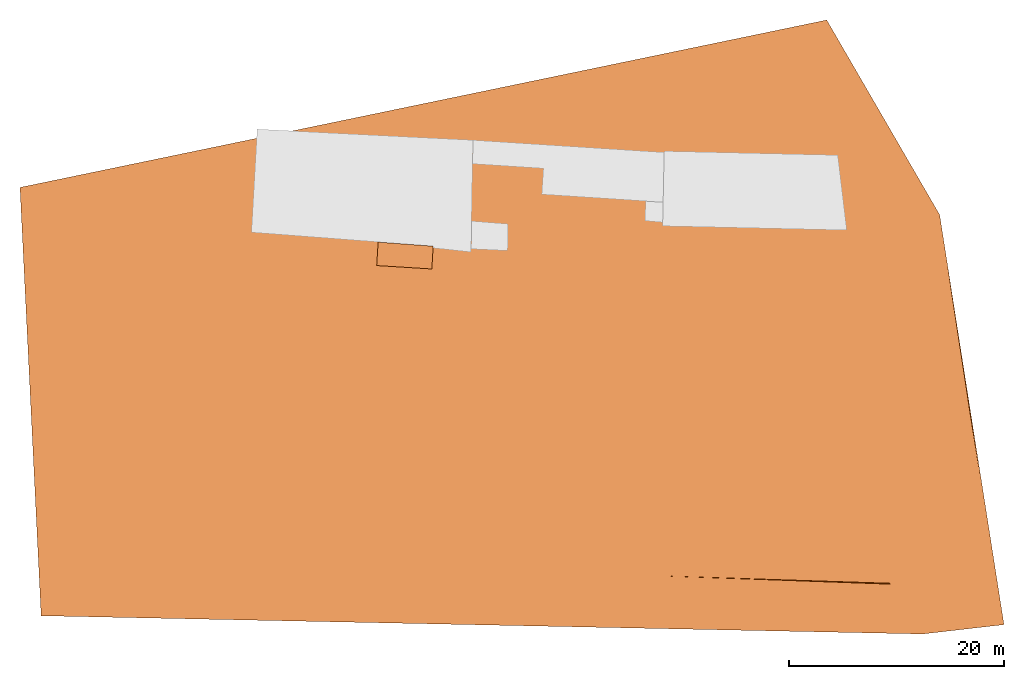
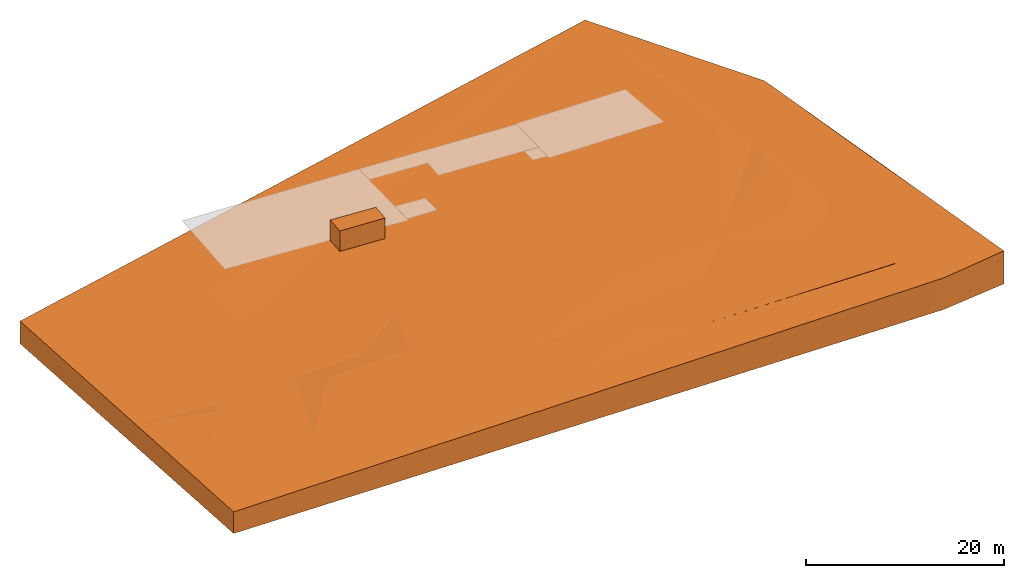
# One storey, part 1 of 2: 2 proxies.
"""IFC2X3 building model written with IfcOpenShell, lengths in millimetres."""

from ifc_helpers import new_model, entity, si_unit, converted_unit, frame, origin, origin_with_axes, place, context, subcontext, project, spatial, faceted_brep, material, element, save


model = new_model("IFC2X3")

# Units and contexts
model_context = context("Model", 3, precision=1e-05, world=origin())
body_context = subcontext(model_context, "Body", "Model", "MODEL_VIEW")
ifc_project = project(units=[si_unit("LENGTHUNIT", "METRE", prefix="MILLI"), converted_unit("PLANEANGLEUNIT", "DEGREE", entity("IfcPlaneAngleMeasure", 0.0174532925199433), si_unit("PLANEANGLEUNIT", "RADIAN"), dimensions=[0, 0, 0, 0, 0, 0, 0]), si_unit("AREAUNIT", "SQUARE_METRE"), si_unit("VOLUMEUNIT", "CUBIC_METRE")], contexts=[model_context])

# Building, storey
building_placement = place(None, origin())
building = spatial("IfcBuilding", under=ifc_project, at=building_placement, Name="Gebäude", CompositionType="ELEMENT")
storey_placement = place(building_placement, origin_with_axes())
storey = spatial("IfcBuildingStorey", under=building, at=storey_placement, Name="Allgemein", CompositionType="ELEMENT")

# Proxies
ifc_material_1 = material(Name="<Unnamed Material>")
proxy_1_placement = place(storey_placement, frame((106469.4287397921, 107641.0710294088, -4170.01), z_axis=(0.0, 0.0, 1.0), x_axis=(1.0, 0.0, 0.0)))
element("IfcBuildingElementProxy", 1, at=proxy_1_placement, inside=storey, material=ifc_material_1, Name="3D Element", context=body_context, shape_type="Brep", body=[
    faceted_brep([(83887.80400483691, 0.01000000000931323, 3901.01), (83670.93977277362, 747.9539640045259, 3895.497999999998), (91447.25555150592, 868.3649489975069, 4072.01), (83670.93977277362, 747.9539640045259, 3895.497999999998), (83887.80400483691, 0.01000000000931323, 3901.01), (59379.27151982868, 5407.71084285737, 3592.01), (83887.80400483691, 0.01000000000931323, 3901.01), (1962.899374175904, 1694.005056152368, 2663.01), (24211.96380059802, 3129.564919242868, 3064.01), (83887.80400483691, 0.01000000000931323, 3901.01), (24211.96380059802, 3129.564919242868, 3064.01), (42631.42991464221, 4319.951882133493, 3365.01), (83887.80400483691, 0.01000000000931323, 3901.01), (42631.42991464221, 4319.951882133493, 3365.01), (59379.27151982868, 5407.71084285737, 3592.01), (91447.25555150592, 868.3649489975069, 4072.01), (83670.93977277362, 747.9539640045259, 3895.497999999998), (83277.39790456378, 1708.51383567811, 3888.150000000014), (83277.39790456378, 1708.51383567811, 3888.150000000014), (83670.93977277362, 747.9539640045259, 3895.497999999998), (59379.27151982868, 5407.71084285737, 3592.01), (91447.25555150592, 868.3649489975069, 4072.01), (83277.39790456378, 1708.51383567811, 3888.150000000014), (85622.3654739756, 6844.336299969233, 4049.01), (91447.25555150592, 868.3649489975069, 4072.01), (85622.3654739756, 6844.336299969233, 4049.01), (89221.70603482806, 14474.36988616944, 4096.01), (91447.25555150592, 868.3649489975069, 4072.01), (89221.70603482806, 14474.36988616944, 4096.01), (85467.89195458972, 38960.49005390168, 4075.01), (24211.96380059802, 3129.564919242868, 3064.01), (1962.899374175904, 1694.005056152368, 2663.01), (12762.36803012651, 5403.962569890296, 2972.01), (12762.36803012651, 5403.962569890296, 2972.01), (1962.899374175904, 1694.005056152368, 2663.01), (1801.634645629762, 8192.807076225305, 2738.01), (1801.634645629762, 8192.807076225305, 2738.01), (1962.899374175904, 1694.005056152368, 2663.01), (0.01000000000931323, 41502.88635599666, 2777.01), (82907.14309136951, 2393.614575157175, 3882.637999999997), (83277.39790456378, 1708.51383567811, 3888.150000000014), (59379.27151982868, 5407.71084285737, 3592.01), (83277.39790456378, 1708.51383567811, 3888.150000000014), (82907.14309136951, 2393.614575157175, 3882.637999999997), (85622.3654739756, 6844.336299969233, 4049.01), (82475.90345780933, 3042.06057811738, 3877.125999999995), (82907.14309136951, 2393.614575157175, 3882.637999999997), (59379.27151982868, 5407.71084285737, 3592.01), (82907.14309136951, 2393.614575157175, 3882.637999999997), (82475.90345780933, 3042.06057811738, 3877.125999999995), (85622.3654739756, 6844.336299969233, 4049.01), (81987.27882402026, 3648.440398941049, 3871.614999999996), (82475.90345780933, 3042.06057811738, 3877.125999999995), (59379.27151982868, 5407.71084285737, 3592.01), (82475.90345780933, 3042.06057811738, 3877.125999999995), (81987.27882402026, 3648.440398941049, 3871.614999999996), (85622.3654739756, 6844.336299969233, 4049.01), (42631.42991464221, 4319.951882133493, 3365.01), (24211.96380059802, 3129.564919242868, 3064.01), (32584.86327474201, 10184.10192848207, 3305.01), (24211.96380059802, 3129.564919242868, 3064.01), (12762.36803012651, 5403.962569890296, 2972.01), (15663.2013103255, 9103.518121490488, 3001.01), (24211.96380059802, 3129.564919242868, 3064.01), (15663.2013103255, 9103.518121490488, 3001.01), (32584.86327474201, 10184.10192848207, 3305.01), (81445.34761827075, 4207.692138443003, 3866.103000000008), (81987.27882402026, 3648.440398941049, 3871.614999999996), (59379.27151982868, 5407.71084285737, 3592.01), (81987.27882402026, 3648.440398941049, 3871.614999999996), (81445.34761827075, 4207.692138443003, 3866.103000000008), (85622.3654739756, 6844.336299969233, 4049.01), (80962.69147887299, 4629.16356244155, 3895.01), (81445.34761827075, 4207.692138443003, 3866.103000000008), (59379.27151982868, 5407.71084285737, 3592.01), (81445.34761827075, 4207.692138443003, 3866.103000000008), (80962.69147887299, 4629.16356244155, 3895.01), (85622.3654739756, 6844.336299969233, 4049.01), (59379.27151982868, 5407.71084285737, 3592.01), (42631.42991464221, 4319.951882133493, 3365.01), (53104.674319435, 8176.142573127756, 3662.01), (53104.674319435, 8176.142573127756, 3662.01), (42631.42991464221, 4319.951882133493, 3365.01), (41169.68759172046, 10754.85533023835, 3385.01), (42631.42991464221, 4319.951882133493, 3365.01), (32584.86327474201, 10184.10192848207, 3305.01), (41169.68759172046, 10754.85533023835, 3385.01), (80854.63575284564, 4715.146519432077, 3860.590999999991), (80962.69147887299, 4629.16356244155, 3895.01), (59379.27151982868, 5407.71084285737, 3592.01), (80962.69147887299, 4629.16356244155, 3895.01), (80854.63575284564, 4715.146519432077, 3860.590999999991), (85622.3654739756, 6844.336299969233, 4049.01), (80436.14630620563, 5022.561943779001, 3856.917000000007), (80854.63575284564, 4715.146519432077, 3860.590999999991), (59379.27151982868, 5407.71084285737, 3592.01), (80854.63575284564, 4715.146519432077, 3860.590999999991), (80436.14630620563, 5022.561943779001, 3856.917000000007), (85622.3654739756, 6844.336299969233, 4049.01), (80436.14630620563, 5022.561943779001, 3856.917000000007), (59379.27151982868, 5407.71084285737, 3592.01), (79775.27111928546, 5434.502494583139, 3851.40499999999), (80436.14630620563, 5022.561943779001, 3856.917000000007), (79775.27111928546, 5434.502494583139, 3851.40499999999), (85622.3654739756, 6844.336299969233, 4049.01), (12762.36803012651, 5403.962569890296, 2972.01), (1801.634645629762, 8192.807076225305, 2738.01), (15663.2013103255, 9103.518121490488, 3001.01), (79775.27111928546, 5434.502494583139, 3851.40499999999), (59379.27151982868, 5407.71084285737, 3592.01), (79079.55640714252, 5784.405359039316, 3845.893999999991), (79079.55640714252, 5784.405359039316, 3845.893999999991), (59379.27151982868, 5407.71084285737, 3592.01), (78354.80941979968, 6069.347322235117, 3840.382000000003), (78354.80941979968, 6069.347322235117, 3840.382000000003), (59379.27151982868, 5407.71084285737, 3592.01), (77607.08018224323, 6286.951640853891, 3834.870000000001), (77607.08018224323, 6286.951640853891, 3834.870000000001), (59379.27151982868, 5407.71084285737, 3592.01), (76842.6112663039, 6435.401647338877, 3829.358999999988), (76842.6112663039, 6435.401647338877, 3829.358999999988), (59379.27151982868, 5407.71084285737, 3592.01), (76326.81224458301, 6495.312238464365, 3825.684000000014), (76326.81224458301, 6495.312238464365, 3825.684000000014), (59379.27151982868, 5407.71084285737, 3592.01), (75808.32176988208, 6523.702268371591, 3822.01), (75808.32176988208, 6523.702268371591, 3822.01), (59379.27151982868, 5407.71084285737, 3592.01), (62745.39512460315, 12149.42137313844, 3658.01), (59379.27151982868, 5407.71084285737, 3592.01), (53104.674319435, 8176.142573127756, 3662.01), (62745.39512460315, 12149.42137313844, 3658.01), (79775.27111928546, 5434.502494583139, 3851.40499999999), (79079.55640714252, 5784.405359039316, 3845.893999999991), (77841.91465489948, 14256.45029617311, 3934.116), (85622.3654739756, 6844.336299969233, 4049.01), (79775.27111928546, 5434.502494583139, 3851.40499999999), (77841.91465489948, 14256.45029617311, 3934.116), (79079.55640714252, 5784.405359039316, 3845.893999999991), (78354.80941979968, 6069.347322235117, 3840.382000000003), (77841.91465489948, 14256.45029617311, 3934.116), (78354.80941979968, 6069.347322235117, 3840.382000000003), (77607.08018224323, 6286.951640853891, 3834.870000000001), (77053.00875203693, 13749.68555332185, 3920.754999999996), (78354.80941979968, 6069.347322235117, 3840.382000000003), (77053.00875203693, 13749.68555332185, 3920.754999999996), (77841.91465489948, 14256.45029617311, 3934.116), (77607.08018224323, 6286.951640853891, 3834.870000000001), (76842.6112663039, 6435.401647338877, 3829.358999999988), (76202.59469525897, 13354.74249053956, 3907.393000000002), (77607.08018224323, 6286.951640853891, 3834.870000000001), (76202.59469525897, 13354.74249053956, 3907.393000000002), (77053.00875203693, 13749.68555332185, 3920.754999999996), (76842.6112663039, 6435.401647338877, 3829.358999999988), (76326.81224458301, 6495.312238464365, 3825.684000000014), (76202.59469525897, 13354.74249053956, 3907.393000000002), (76326.81224458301, 6495.312238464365, 3825.684000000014), (75808.32176988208, 6523.702268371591, 3822.01), (75306.42768018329, 13078.93932891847, 3894.030999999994), (76326.81224458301, 6495.312238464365, 3825.684000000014), (75306.42768018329, 13078.93932891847, 3894.030999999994), (76202.59469525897, 13354.74249053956, 3907.393000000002), (75808.32176988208, 6523.702268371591, 3822.01), (62745.39512460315, 12149.42137313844, 3658.01), (74614.24009149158, 12953.43079639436, 3884.01), (75808.32176988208, 6523.702268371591, 3822.01), (74614.24009149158, 12953.43079639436, 3884.01), (75306.42768018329, 13078.93932891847, 3894.030999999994), (85622.3654739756, 6844.336299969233, 4049.01), (77841.91465489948, 14256.45029617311, 3934.116), (78554.69801061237, 14865.64883972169, 3947.477999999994), (89221.70603482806, 14474.36988616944, 4096.01), (85622.3654739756, 6844.336299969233, 4049.01), (79318.66832559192, 15753.83709407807, 3964.179999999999), (85622.3654739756, 6844.336299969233, 4049.01), (78554.69801061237, 14865.64883972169, 3947.477999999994), (79081.9575167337, 15444.70075491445, 3962.01), (85622.3654739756, 6844.336299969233, 4049.01), (79081.9575167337, 15444.70075491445, 3962.01), (79318.66832559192, 15753.83709407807, 3964.179999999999), (53104.674319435, 8176.142573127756, 3662.01), (41169.68759172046, 10754.85533023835, 3385.01), (62745.39512460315, 12149.42137313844, 3658.01), (15663.2013103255, 9103.518121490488, 3001.01), (1801.634645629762, 8192.807076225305, 2738.01), (3328.762055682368, 10052.63044388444, 2750.01), (3328.762055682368, 10052.63044388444, 2750.01), (1801.634645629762, 8192.807076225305, 2738.01), (2135.349988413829, 19632.49431240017, 2762.01), (2135.349988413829, 19632.49431240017, 2762.01), (1801.634645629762, 8192.807076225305, 2738.01), (820.4438803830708, 33717.42469647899, 2769.01), (820.4438803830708, 33717.42469647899, 2769.01), (1801.634645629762, 8192.807076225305, 2738.01), (0.01000000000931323, 41502.88635599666, 2777.01), (15663.2013103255, 9103.518121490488, 3001.01), (3328.762055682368, 10052.63044388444, 2750.01), (8881.733948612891, 17311.97013320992, 3167.01), (32584.86327474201, 10184.10192848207, 3305.01), (15663.2013103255, 9103.518121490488, 3001.01), (21629.00973146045, 16649.55250335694, 3324.01), (21629.00973146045, 16649.55250335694, 3324.01), (15663.2013103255, 9103.518121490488, 3001.01), (19216.81281739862, 19071.39127734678, 2636.01), (15663.2013103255, 9103.518121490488, 3001.01), (8881.733948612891, 17311.97013320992, 3167.01), (10220.61584060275, 18964.74727464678, 2693.01), (15663.2013103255, 9103.518121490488, 3001.01), (10220.61584060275, 18964.74727464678, 2693.01), (19216.81281739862, 19071.39127734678, 2636.01), (8881.733948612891, 17311.97013320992, 3167.01), (3328.762055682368, 10052.63044388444, 2750.01), (2135.349988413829, 19632.49431240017, 2762.01), (41169.68759172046, 10754.85533023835, 3385.01), (32584.86327474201, 10184.10192848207, 3305.01), (31084.74426593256, 16893.61278696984, 3399.01), (32584.86327474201, 10184.10192848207, 3305.01), (21629.00973146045, 16649.55250335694, 3324.01), (31084.74426593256, 16893.61278696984, 3399.01), (62745.39512460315, 12149.42137313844, 3658.01), (41169.68759172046, 10754.85533023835, 3385.01), (56110.27157297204, 17012.79319276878, 3933.01), (41169.68759172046, 10754.85533023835, 3385.01), (31084.74426593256, 16893.61278696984, 3399.01), (44874.65527754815, 17394.96522745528, 3551.01), (56110.27157297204, 17012.79319276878, 3933.01), (41169.68759172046, 10754.85533023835, 3385.01), (44874.65527754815, 17394.96522745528, 3551.01), (74614.24009149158, 12953.43079639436, 3884.01), (62745.39512460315, 12149.42137313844, 3658.01), (67809.49009668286, 17146.77808747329, 3993.01), (62745.39512460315, 12149.42137313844, 3658.01), (56110.27157297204, 17012.79319276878, 3933.01), (67809.49009668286, 17146.77808747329, 3993.01), (75306.42768018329, 13078.93932891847, 3894.030999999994), (74614.24009149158, 12953.43079639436, 3884.01), (75682.26304431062, 17437.11599599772, 4174.01), (74614.24009149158, 12953.43079639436, 3884.01), (67809.49009668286, 17146.77808747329, 3993.01), (75682.26304431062, 17437.11599599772, 4174.01), (76202.59469525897, 13354.74249053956, 3907.393000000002), (75306.42768018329, 13078.93932891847, 3894.030999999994), (75682.26304431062, 17437.11599599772, 4174.01), (77053.00875203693, 13749.68555332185, 3920.754999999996), (76202.59469525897, 13354.74249053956, 3907.393000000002), (75682.26304431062, 17437.11599599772, 4174.01), (77841.91465489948, 14256.45029617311, 3934.116), (77053.00875203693, 13749.68555332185, 3920.754999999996), (75682.26304431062, 17437.11599599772, 4174.01), (78554.69801061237, 14865.64883972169, 3947.477999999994), (77841.91465489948, 14256.45029617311, 3934.116), (75682.26304431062, 17437.11599599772, 4174.01), (89221.70603482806, 14474.36988616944, 4096.01), (79318.66832559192, 15753.83709407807, 3964.179999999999), (79814.43738000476, 16549.6996762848, 3977.541999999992), (89221.70603482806, 14474.36988616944, 4096.01), (79814.43738000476, 16549.6996762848, 3977.541999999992), (80197.54224412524, 17405.51152397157, 3990.904000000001), (89221.70603482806, 14474.36988616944, 4096.01), (80197.54224412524, 17405.51152397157, 3990.904000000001), (80460.88462750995, 18305.41892124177, 4004.265000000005), (89221.70603482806, 14474.36988616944, 4096.01), (80460.88462750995, 18305.41892124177, 4004.265000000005), (86367.90536523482, 18909.58371850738, 4121.01), (89221.70603482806, 14474.36988616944, 4096.01), (86367.90536523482, 18909.58371850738, 4121.01), (87458.73794286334, 25400.30273033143, 4070.01), (89221.70603482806, 14474.36988616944, 4096.01), (87458.73794286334, 25400.30273033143, 4070.01), (85467.89195458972, 38960.49005390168, 4075.01), (79081.9575167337, 15444.70075491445, 3962.01), (78554.69801061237, 14865.64883972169, 3947.477999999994), (75682.26304431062, 17437.11599599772, 4174.01), (79318.66832559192, 15753.83709407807, 3964.179999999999), (79081.9575167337, 15444.70075491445, 3962.01), (75682.26304431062, 17437.11599599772, 4174.01), (79814.43738000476, 16549.6996762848, 3977.541999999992), (79318.66832559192, 15753.83709407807, 3964.179999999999), (75682.26304431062, 17437.11599599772, 4174.01), (80197.54224412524, 17405.51152397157, 3990.904000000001), (79814.43738000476, 16549.6996762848, 3977.541999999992), (75682.26304431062, 17437.11599599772, 4174.01), (31084.74426593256, 16893.61278696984, 3399.01), (21629.00973146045, 16649.55250335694, 3324.01), (27062.29855498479, 19096.08015527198, 2788.01), (21629.00973146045, 16649.55250335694, 3324.01), (19216.81281739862, 19071.39127734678, 2636.01), (27062.29855498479, 19096.08015527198, 2788.01), (44874.65527754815, 17394.96522745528, 3551.01), (31084.74426593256, 16893.61278696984, 3399.01), (33622.61440293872, 23536.6055734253, 3011.01), (31084.74426593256, 16893.61278696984, 3399.01), (27062.29855498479, 19096.08015527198, 2788.01), (33622.61440293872, 23536.6055734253, 3011.01), (67809.49009668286, 17146.77808747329, 3993.01), (56110.27157297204, 17012.79319276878, 3933.01), (77412.95234124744, 34214.46046949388, 4250.01), (56110.27157297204, 17012.79319276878, 3933.01), (44874.65527754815, 17394.96522745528, 3551.01), (34096.39898507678, 28857.94151140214, 3000.01), (56110.27157297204, 17012.79319276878, 3933.01), (34096.39898507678, 28857.94151140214, 3000.01), (77412.95234124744, 34214.46046949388, 4250.01), (75682.26304431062, 17437.11599599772, 4174.01), (67809.49009668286, 17146.77808747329, 3993.01), (79151.96804622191, 21588.57636593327, 4213.01), (79151.96804622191, 21588.57636593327, 4213.01), (67809.49009668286, 17146.77808747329, 3993.01), (78587.25684039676, 26535.32653738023, 4227.01), (78587.25684039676, 26535.32653738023, 4227.01), (67809.49009668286, 17146.77808747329, 3993.01), (79061.38931195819, 30128.54214454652, 4061.01), (79061.38931195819, 30128.54214454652, 4061.01), (67809.49009668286, 17146.77808747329, 3993.01), (77412.95234124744, 34214.46046949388, 4250.01), (10220.61584060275, 18964.74727464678, 2693.01), (8881.733948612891, 17311.97013320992, 3167.01), (2135.349988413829, 19632.49431240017, 2762.01), (44874.65527754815, 17394.96522745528, 3551.01), (33622.61440293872, 23536.6055734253, 3011.01), (34096.39898507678, 28857.94151140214, 3000.01), (80197.54224412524, 17405.51152397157, 3990.904000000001), (75682.26304431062, 17437.11599599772, 4174.01), (78829.0023237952, 18977.48020912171, 4149.01), (80460.88462750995, 18305.41892124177, 4004.265000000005), (80197.54224412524, 17405.51152397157, 3990.904000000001), (78829.0023237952, 18977.48020912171, 4149.01), (78829.0023237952, 18977.48020912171, 4149.01), (75682.26304431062, 17437.11599599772, 4174.01), (79151.96804622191, 21588.57636593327, 4213.01), (86367.90536523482, 18909.58371850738, 4121.01), (80460.88462750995, 18305.41892124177, 4004.265000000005), (80599.58657090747, 19232.7512557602, 4017.626999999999), (80460.88462750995, 18305.41892124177, 4004.265000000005), (78829.0023237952, 18977.48020912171, 4149.01), (80599.58657090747, 19232.7512557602, 4017.626999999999), (86367.90536523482, 18909.58371850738, 4121.01), (80599.58657090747, 19232.7512557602, 4017.626999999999), (80620.18282048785, 19935.92381549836, 4027.647999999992), (86367.90536523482, 18909.58371850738, 4121.01), (80620.18282048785, 19935.92381549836, 4027.647999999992), (80535.99785916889, 20869.78468872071, 4041.01), (86367.90536523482, 18909.58371850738, 4121.01), (80535.99785916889, 20869.78468872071, 4041.01), (87458.73794286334, 25400.30273033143, 4070.01), (19216.81281739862, 19071.39127734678, 2636.01), (10220.61584060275, 18964.74727464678, 2693.01), (18844.0353509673, 29661.92133832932, 2654.01), (10220.61584060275, 18964.74727464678, 2693.01), (2135.349988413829, 19632.49431240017, 2762.01), (9098.831879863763, 27776.97722780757, 2616.01), (10220.61584060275, 18964.74727464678, 2693.01), (9098.831879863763, 27776.97722780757, 2616.01), (18844.0353509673, 29661.92133832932, 2654.01), (80599.58657090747, 19232.7512557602, 4017.626999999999), (78829.0023237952, 18977.48020912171, 4149.01), (80620.18282048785, 19935.92381549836, 4027.647999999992), (80620.18282048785, 19935.92381549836, 4027.647999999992), (78829.0023237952, 18977.48020912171, 4149.01), (80535.99785916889, 20869.78468872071, 4041.01), (80535.99785916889, 20869.78468872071, 4041.01), (78829.0023237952, 18977.48020912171, 4149.01), (79151.96804622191, 21588.57636593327, 4213.01), (27062.29855498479, 19096.08015527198, 2788.01), (19216.81281739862, 19071.39127734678, 2636.01), (26660.49294024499, 27674.85094437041, 2797.01), (26660.49294024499, 27674.85094437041, 2797.01), (19216.81281739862, 19071.39127734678, 2636.01), (18844.0353509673, 29661.92133832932, 2654.01), (33622.61440293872, 23536.6055734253, 3011.01), (27062.29855498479, 19096.08015527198, 2788.01), (26660.49294024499, 27674.85094437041, 2797.01), (9098.831879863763, 27776.97722780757, 2616.01), (2135.349988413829, 19632.49431240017, 2762.01), (820.4438803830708, 33717.42469647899, 2769.01), (80535.99785916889, 20869.78468872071, 4041.01), (79151.96804622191, 21588.57636593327, 4213.01), (78587.25684039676, 26535.32653738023, 4227.01), (87458.73794286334, 25400.30273033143, 4070.01), (80535.99785916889, 20869.78468872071, 4041.01), (79061.38931195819, 30128.54214454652, 4061.01), (80535.99785916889, 20869.78468872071, 4041.01), (78587.25684039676, 26535.32653738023, 4227.01), (79061.38931195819, 30128.54214454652, 4061.01), (33622.61440293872, 23536.6055734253, 3011.01), (26660.49294024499, 27674.85094437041, 2797.01), (34096.39898507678, 28857.94151140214, 3000.01), (87458.73794286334, 25400.30273033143, 4070.01), (79061.38931195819, 30128.54214454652, 4061.01), (85467.89195458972, 38960.49005390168, 4075.01), (34096.39898507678, 28857.94151140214, 3000.01), (26660.49294024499, 27674.85094437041, 2797.01), (29520.55831517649, 35053.3110863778, 2816.01), (26660.49294024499, 27674.85094437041, 2797.01), (18844.0353509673, 29661.92133832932, 2654.01), (29520.55831517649, 35053.3110863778, 2816.01), (18844.0353509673, 29661.92133832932, 2654.01), (9098.831879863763, 27776.97722780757, 2616.01), (8441.561283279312, 35580.29225135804, 2729.01), (9098.831879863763, 27776.97722780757, 2616.01), (820.4438803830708, 33717.42469647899, 2769.01), (8441.561283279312, 35580.29225135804, 2729.01), (77412.95234124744, 34214.46046949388, 4250.01), (34096.39898507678, 28857.94151140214, 3000.01), (77047.24689930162, 37511.52530379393, 4290.01), (34096.39898507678, 28857.94151140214, 3000.01), (29520.55831517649, 35053.3110863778, 2816.01), (74969.91858252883, 57061.77346301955, 4270.01), (77047.24689930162, 37511.52530379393, 4290.01), (34096.39898507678, 28857.94151140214, 3000.01), (74969.91858252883, 57061.77346301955, 4270.01), (29520.55831517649, 35053.3110863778, 2816.01), (18844.0353509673, 29661.92133832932, 2654.01), (18978.12974231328, 36217.92467094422, 3093.01), (18844.0353509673, 29661.92133832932, 2654.01), (8441.561283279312, 35580.29225135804, 2729.01), (18978.12974231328, 36217.92467094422, 3093.01), (79061.38931195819, 30128.54214454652, 4061.01), (77412.95234124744, 34214.46046949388, 4250.01), (77963.23022286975, 38093.88906837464, 4093.01), (79061.38931195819, 30128.54214454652, 4061.01), (77963.23022286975, 38093.88906837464, 4093.01), (85467.89195458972, 38960.49005390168, 4075.01), (8441.561283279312, 35580.29225135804, 2729.01), (820.4438803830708, 33717.42469647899, 2769.01), (0.01000000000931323, 41502.88635599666, 2777.01), (77412.95234124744, 34214.46046949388, 4250.01), (77047.24689930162, 37511.52530379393, 4290.01), (77963.23022286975, 38093.88906837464, 4093.01), (29520.55831517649, 35053.3110863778, 2816.01), (18978.12974231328, 36217.92467094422, 3093.01), (74969.91858252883, 57061.77346301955, 4270.01), (18978.12974231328, 36217.92467094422, 3093.01), (8441.561283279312, 35580.29225135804, 2729.01), (0.01000000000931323, 41502.88635599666, 2777.01), (18978.12974231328, 36217.92467094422, 3093.01), (0.01000000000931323, 41502.88635599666, 2777.01), (74969.91858252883, 57061.77346301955, 4270.01), (77963.23022286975, 38093.88906837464, 4093.01), (77047.24689930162, 37511.52530379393, 4290.01), (74969.91858252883, 57061.77346301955, 4270.01), (85467.89195458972, 38960.49005390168, 4075.01), (77963.23022286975, 38093.88906837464, 4093.01), (74969.91858252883, 57061.77346301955, 4270.01), (83887.80400483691, 0.01000000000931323, 3901.01), (91447.25555150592, 868.3649489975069, 4072.01), (91447.25555150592, 868.3649489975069, 0.01000000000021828), (83887.80400483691, 0.01000000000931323, 0.01000000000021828), (91447.25555150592, 868.3649489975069, 4072.01), (85467.89195458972, 38960.49005390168, 4075.01), (85467.89195458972, 38960.49005390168, 0.01000000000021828), (91447.25555150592, 868.3649489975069, 0.01000000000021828), (85467.89195458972, 38960.49005390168, 4075.01), (74969.91858252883, 57061.77346301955, 4270.01), (74969.91858252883, 57061.77346301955, 0.01000000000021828), (85467.89195458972, 38960.49005390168, 0.01000000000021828), (74969.91858252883, 57061.77346301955, 4270.01), (0.01000000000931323, 41502.88635599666, 2777.01), (0.01000000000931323, 41502.88635599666, 0.01000000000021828), (74969.91858252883, 57061.77346301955, 0.01000000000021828), (0.01000000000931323, 41502.88635599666, 2777.01), (1962.899374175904, 1694.005056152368, 2663.01), (1962.899374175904, 1694.005056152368, 0.01000000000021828), (0.01000000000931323, 41502.88635599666, 0.01000000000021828), (1962.899374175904, 1694.005056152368, 2663.01), (83887.80400483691, 0.01000000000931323, 3901.01), (83887.80400483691, 0.01000000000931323, 0.01000000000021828), (1962.899374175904, 1694.005056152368, 0.01000000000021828), (83887.80400483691, 0.01000000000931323, 0.01000000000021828), (91447.25555150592, 868.3649489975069, 0.01000000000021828), (85467.89195458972, 38960.49005390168, 0.01000000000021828), (74969.91858252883, 57061.77346301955, 0.01000000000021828), (0.01000000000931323, 41502.88635599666, 0.01000000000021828), (1962.899374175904, 1694.005056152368, 0.01000000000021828)], [[[0, 1, 2]], [[3, 4, 5]], [[6, 7, 8]], [[9, 10, 11]], [[12, 13, 14]], [[15, 16, 17]], [[18, 19, 20]], [[21, 22, 23]], [[24, 25, 26]], [[27, 28, 29]], [[30, 31, 32]], [[33, 34, 35]], [[36, 37, 38]], [[39, 40, 41]], [[42, 43, 44]], [[45, 46, 47]], [[48, 49, 50]], [[51, 52, 53]], [[54, 55, 56]], [[57, 58, 59]], [[60, 61, 62]], [[63, 64, 65]], [[66, 67, 68]], [[69, 70, 71]], [[72, 73, 74]], [[75, 76, 77]], [[78, 79, 80]], [[81, 82, 83]], [[84, 85, 86]], [[87, 88, 89]], [[90, 91, 92]], [[93, 94, 95]], [[96, 97, 98]], [[99, 100, 101]], [[102, 103, 104]], [[105, 106, 107]], [[108, 109, 110]], [[111, 112, 113]], [[114, 115, 116]], [[117, 118, 119]], [[120, 121, 122]], [[123, 124, 125]], [[126, 127, 128]], [[129, 130, 131]], [[132, 133, 134]], [[135, 136, 137]], [[138, 139, 140]], [[141, 142, 143]], [[144, 145, 146]], [[147, 148, 149]], [[150, 151, 152]], [[153, 154, 155]], [[156, 157, 158]], [[159, 160, 161]], [[162, 163, 164]], [[165, 166, 167]], [[168, 169, 170]], [[171, 172, 173]], [[174, 175, 176]], [[177, 178, 179]], [[180, 181, 182]], [[183, 184, 185]], [[186, 187, 188]], [[189, 190, 191]], [[192, 193, 194]], [[195, 196, 197]], [[198, 199, 200]], [[201, 202, 203]], [[204, 205, 206]], [[207, 208, 209]], [[210, 211, 212]], [[213, 214, 215]], [[216, 217, 218]], [[219, 220, 221]], [[222, 223, 224]], [[225, 226, 227]], [[228, 229, 230]], [[231, 232, 233]], [[234, 235, 236]], [[237, 238, 239]], [[240, 241, 242]], [[243, 244, 245]], [[246, 247, 248]], [[249, 250, 251]], [[252, 253, 254]], [[255, 256, 257]], [[258, 259, 260]], [[261, 262, 263]], [[264, 265, 266]], [[267, 268, 269]], [[270, 271, 272]], [[273, 274, 275]], [[276, 277, 278]], [[279, 280, 281]], [[282, 283, 284]], [[285, 286, 287]], [[288, 289, 290]], [[291, 292, 293]], [[294, 295, 296]], [[297, 298, 299]], [[300, 301, 302]], [[303, 304, 305]], [[306, 307, 308]], [[309, 310, 311]], [[312, 313, 314]], [[315, 316, 317]], [[318, 319, 320]], [[321, 322, 323]], [[324, 325, 326]], [[327, 328, 329]], [[330, 331, 332]], [[333, 334, 335]], [[336, 337, 338]], [[339, 340, 341]], [[342, 343, 344]], [[345, 346, 347]], [[348, 349, 350]], [[351, 352, 353]], [[354, 355, 356]], [[357, 358, 359]], [[360, 361, 362]], [[363, 364, 365]], [[366, 367, 368]], [[369, 370, 371]], [[372, 373, 374]], [[375, 376, 377]], [[378, 379, 380]], [[381, 382, 383]], [[384, 385, 386]], [[387, 388, 389]], [[390, 391, 392]], [[393, 394, 395]], [[396, 397, 398]], [[399, 400, 401]], [[402, 403, 404]], [[405, 406, 407]], [[408, 409, 410]], [[411, 412, 413]], [[414, 415, 416]], [[417, 418, 419]], [[420, 421, 422]], [[423, 424, 425]], [[426, 427, 428]], [[429, 430, 431]], [[432, 433, 434]], [[435, 436, 437]], [[438, 439, 440]], [[441, 442, 443]], [[444, 445, 446, 447]], [[448, 449, 450, 451]], [[452, 453, 454, 455]], [[456, 457, 458, 459]], [[460, 461, 462, 463]], [[464, 465, 466, 467]], [[468, 469, 470, 471, 472, 473]]], orient=[[False], [False], [False], [False], [False], [False], [False], [False], [False], [False], [False], [False], [False], [False], [False], [False], [False], [False], [False], [False], [False], [False], [False], [False], [False], [False], [False], [False], [False], [False], [False], [False], [False], [False], [False], [False], [False], [False], [False], [False], [False], [False], [False], [False], [False], [False], [False], [False], [False], [False], [False], [False], [False], [False], [False], [False], [False], [False], [False], [False], [False], [False], [False], [False], [False], [False], [False], [False], [False], [False], [False], [False], [False], [False], [False], [False], [False], [False], [False], [False], [False], [False], [False], [False], [False], [False], [False], [False], [False], [False], [False], [False], [False], [False], [False], [False], [False], [False], [False], [False], [False], [False], [False], [False], [False], [False], [False], [False], [False], [False], [False], [False], [False], [False], [False], [False], [False], [False], [False], [False], [False], [False], [False], [False], [False], [False], [False], [False], [False], [False], [False], [False], [False], [False], [False], [False], [False], [False], [False], [False], [False], [False], [False], [False], [False], [False], [False], [False], [False], [False], [False], [False], [False], [False], [False]]),
])
ifc_material_2 = material(Name="<Unnamed Material>")
proxy_2_placement = place(storey_placement, frame((139618.1565169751, 141564.6036938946, -0.009999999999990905), z_axis=(0.0, 0.0, 1.0), x_axis=(1.0, 0.0, 0.0)))
element("IfcBuildingElementProxy", 2, at=proxy_2_placement, inside=storey, material=ifc_material_2, Name="3D Element", context=body_context, shape_type="Brep", body=[
    faceted_brep([(5253.199737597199, 2119.698950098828, 0.009999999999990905), (5253.199737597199, 2119.698950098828, 2530.010000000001), (101.7227730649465, 2502.042575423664, 2530.010000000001), (101.7227730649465, 2502.042575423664, 0.009999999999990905), (101.7227730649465, 2502.042575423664, 0.009999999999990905), (101.7227730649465, 2502.042575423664, 2530.010000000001), (121.4533175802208, 2291.757256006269, 2530.010000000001), (121.4533175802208, 2291.757256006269, 0.009999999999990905), (121.4533175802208, 2291.757256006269, 0.009999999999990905), (121.4533175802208, 2291.757256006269, 2530.010000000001), (0.01000000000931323, 317.1765585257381, 2530.010000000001), (0.01000000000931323, 317.1765585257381, 0.009999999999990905), (0.01000000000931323, 317.1765585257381, 0.009999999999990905), (0.01000000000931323, 317.1765585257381, 2530.010000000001), (5122.409279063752, 0.009999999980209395, 2530.010000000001), (5122.409279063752, 0.009999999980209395, 0.009999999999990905), (5122.409279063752, 0.009999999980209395, 0.009999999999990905), (5122.409279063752, 0.009999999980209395, 2530.010000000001), (5253.199737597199, 2119.698950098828, 2530.010000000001), (5253.199737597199, 2119.698950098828, 0.009999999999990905), (5253.199737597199, 2119.698950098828, 0.009999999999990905), (101.7227730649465, 2502.042575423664, 0.009999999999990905), (121.4533175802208, 2291.757256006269, 0.009999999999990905), (0.01000000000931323, 317.1765585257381, 0.009999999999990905), (5122.409279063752, 0.009999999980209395, 0.009999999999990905), (5253.199737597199, 2119.698950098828, 2530.010000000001), (5122.409279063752, 0.009999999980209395, 2530.010000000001), (0.01000000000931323, 317.1765585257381, 2530.010000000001), (121.4533175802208, 2291.757256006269, 2530.010000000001), (101.7227730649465, 2502.042575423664, 2530.010000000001)], [[[0, 1, 2, 3]], [[4, 5, 6, 7]], [[8, 9, 10, 11]], [[12, 13, 14, 15]], [[16, 17, 18, 19]], [[20, 21, 22, 23, 24]], [[25, 26, 27, 28, 29]]], orient=[[False], [False], [False], [False], [False], [False], [False]]),
])

save(model, "model.ifc")
